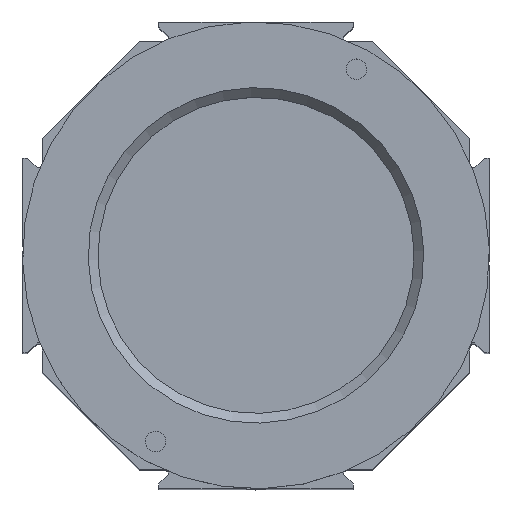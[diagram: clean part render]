
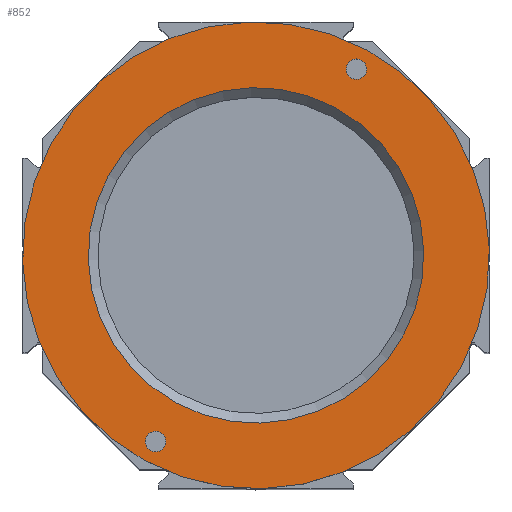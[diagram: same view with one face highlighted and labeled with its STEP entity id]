
A CAD part, top view. The second image highlights one B-rep face of the part: STEP entity #852.
In plain terms, the highlighted planar face has unit normal (0, 0, 1) as drawn and (0, 1, 0) by its records, which use the part's own axes.
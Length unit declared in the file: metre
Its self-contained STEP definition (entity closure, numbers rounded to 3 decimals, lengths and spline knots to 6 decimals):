
#852=ADVANCED_FACE('NONE',(#2161,#2162,#2163,#2164),#2165,.T.);
#920=EDGE_CURVE('NONE',#2273,#2273,#2274,.T.);
#924=EDGE_CURVE('NONE',#2279,#2279,#2280,.T.);
#928=EDGE_CURVE('NONE',#2285,#2285,#2286,.T.);
#930=EDGE_CURVE('NONE',#2288,#2288,#2289,.T.);
#2161=FACE_BOUND('',#3950,.T.);
#2162=FACE_BOUND('',#3951,.T.);
#2163=FACE_BOUND('',#3952,.T.);
#2164=FACE_OUTER_BOUND('',#3953,.T.);
#2165=PLANE('',#3954);
#2273=VERTEX_POINT('',#4089);
#2274=CIRCLE('',#4090,0.0021);
#2279=VERTEX_POINT('',#4097);
#2280=CIRCLE('',#4098,0.048);
#2285=VERTEX_POINT('',#4105);
#2286=CIRCLE('',#4106,0.0345);
#2288=VERTEX_POINT('',#4109);
#2289=CIRCLE('',#4110,0.0021);
#3950=EDGE_LOOP('',(#6742));
#3951=EDGE_LOOP('',(#6743));
#3952=EDGE_LOOP('',(#6744));
#3953=EDGE_LOOP('',(#6745));
#3954=AXIS2_PLACEMENT_3D('',#6746,#6747,#6748);
#4089=CARTESIAN_POINT('',(0.0435,0.0436,-0.0021));
#4090=AXIS2_PLACEMENT_3D('',#6869,#6870,#6871);
#4097=CARTESIAN_POINT('',(0.0,0.0436,0.048));
#4098=AXIS2_PLACEMENT_3D('',#6875,#6876,#6877);
#4105=CARTESIAN_POINT('',(0.0,0.0436,0.0345));
#4106=AXIS2_PLACEMENT_3D('',#6881,#6882,#6883);
#4109=CARTESIAN_POINT('',(-0.0435,0.0436,0.0021));
#4110=AXIS2_PLACEMENT_3D('',#6884,#6885,#6886);
#6742=ORIENTED_EDGE('',*,*,#928,.T.);
#6743=ORIENTED_EDGE('',*,*,#920,.F.);
#6744=ORIENTED_EDGE('',*,*,#930,.F.);
#6745=ORIENTED_EDGE('',*,*,#924,.T.);
#6746=CARTESIAN_POINT('',(-0.0365,0.0436,0.0));
#6747=DIRECTION('',(0.0,1.0,0.0));
#6748=DIRECTION('',(1.0,0.0,-0.0));
#6869=CARTESIAN_POINT('',(0.0435,0.0436,0.));
#6870=DIRECTION('',(0.0,1.0,0.0));
#6871=DIRECTION('',(0.,0.0,-1.0));
#6875=CARTESIAN_POINT('',(0.0,0.0436,0.0));
#6876=DIRECTION('',(0.0,1.0,0.0));
#6877=DIRECTION('',(0.0,0.0,1.0));
#6881=CARTESIAN_POINT('',(0.0,0.0436,0.0));
#6882=DIRECTION('',(0.0,-1.0,0.0));
#6883=DIRECTION('',(0.0,0.0,1.0));
#6884=CARTESIAN_POINT('',(-0.0435,0.0436,0.0));
#6885=DIRECTION('',(0.0,1.0,0.0));
#6886=DIRECTION('',(0.0,0.0,1.0));
